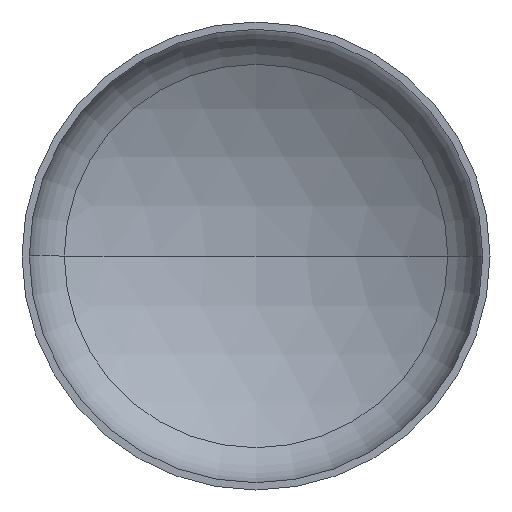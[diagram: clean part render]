
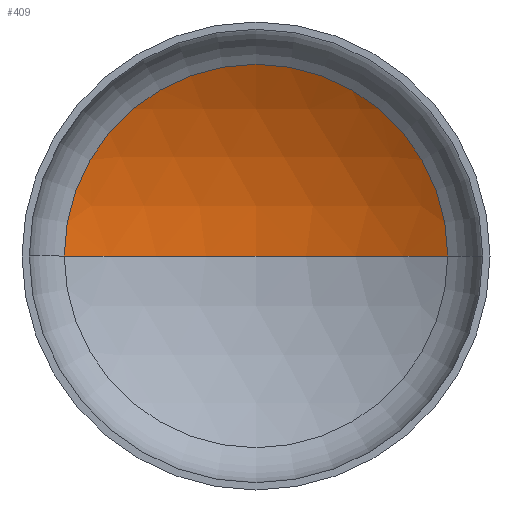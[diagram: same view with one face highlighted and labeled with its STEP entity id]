
A CAD part, front view. The second image highlights one B-rep face of the part: STEP entity #409.
In plain terms, the highlighted spherical face has radius 2560 mm.
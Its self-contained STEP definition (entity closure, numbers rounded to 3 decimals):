
#2 = DIRECTION ( 'NONE',  ( -1., 0., 0. ) ) ;
#3 = DIRECTION ( 'NONE',  ( 0., 0., 1. ) ) ;
#6 = VERTEX_POINT ( 'NONE', #257 ) ;
#12 = CARTESIAN_POINT ( 'NONE',  ( 0., -1628.004, 0. ) ) ;
#30 = EDGE_LOOP ( 'NONE', ( #136, #119, #61 ) ) ;
#42 = AXIS2_PLACEMENT_3D ( 'NONE', #12, #3, #104 ) ;
#48 = AXIS2_PLACEMENT_3D ( 'NONE', #280, #117, #2 ) ;
#54 = AXIS2_PLACEMENT_3D ( 'NONE', #223, #217, #218 ) ;
#61 = ORIENTED_EDGE ( 'NONE', *, *, #112, .T. ) ;
#104 = DIRECTION ( 'NONE',  ( 1., 0., 0. ) ) ;
#105 = VERTEX_POINT ( 'NONE', #369 ) ;
#110 = FACE_OUTER_BOUND ( 'NONE', #30, .T. ) ;
#112 = EDGE_CURVE ( 'NONE', #105, #138, #325, .T. ) ;
#117 = DIRECTION ( 'NONE',  ( 0., 0., -1. ) ) ;
#119 = ORIENTED_EDGE ( 'NONE', *, *, #131, .T. ) ;
#121 = DIRECTION ( 'NONE',  ( -1., 0., 0. ) ) ;
#128 = AXIS2_PLACEMENT_3D ( 'NONE', #172, #284, #121 ) ;
#131 = EDGE_CURVE ( 'NONE', #6, #105, #266, .T. ) ;
#136 = ORIENTED_EDGE ( 'NONE', *, *, #141, .F. ) ;
#138 = VERTEX_POINT ( 'NONE', #207 ) ;
#141 = EDGE_CURVE ( 'NONE', #6, #138, #211, .T. ) ;
#172 = CARTESIAN_POINT ( 'NONE',  ( 0., -1628.004, 0. ) ) ;
#207 = CARTESIAN_POINT ( 'NONE',  ( -1310.918, 570.88, 0. ) ) ;
#209 = SPHERICAL_SURFACE ( 'NONE', #128, 2560. ) ;
#211 = CIRCLE ( 'NONE', #42, 2560. ) ;
#217 = DIRECTION ( 'NONE',  ( 0., -1., 0. ) ) ;
#218 = DIRECTION ( 'NONE',  ( 1., 0., 0. ) ) ;
#223 = CARTESIAN_POINT ( 'NONE',  ( 0., 570.88, 0. ) ) ;
#257 = CARTESIAN_POINT ( 'NONE',  ( 0., 931.996, 0. ) ) ;
#266 = CIRCLE ( 'NONE', #48, 2560. ) ;
#280 = CARTESIAN_POINT ( 'NONE',  ( 0., -1628.004, 0. ) ) ;
#284 = DIRECTION ( 'NONE',  ( 0., 0., -1. ) ) ;
#325 = CIRCLE ( 'NONE', #54, 1310.918 ) ;
#369 = CARTESIAN_POINT ( 'NONE',  ( 1310.918, 570.88, 0. ) ) ;
#409 = ADVANCED_FACE ( 'NONE', ( #110 ), #209, .F. ) ;
